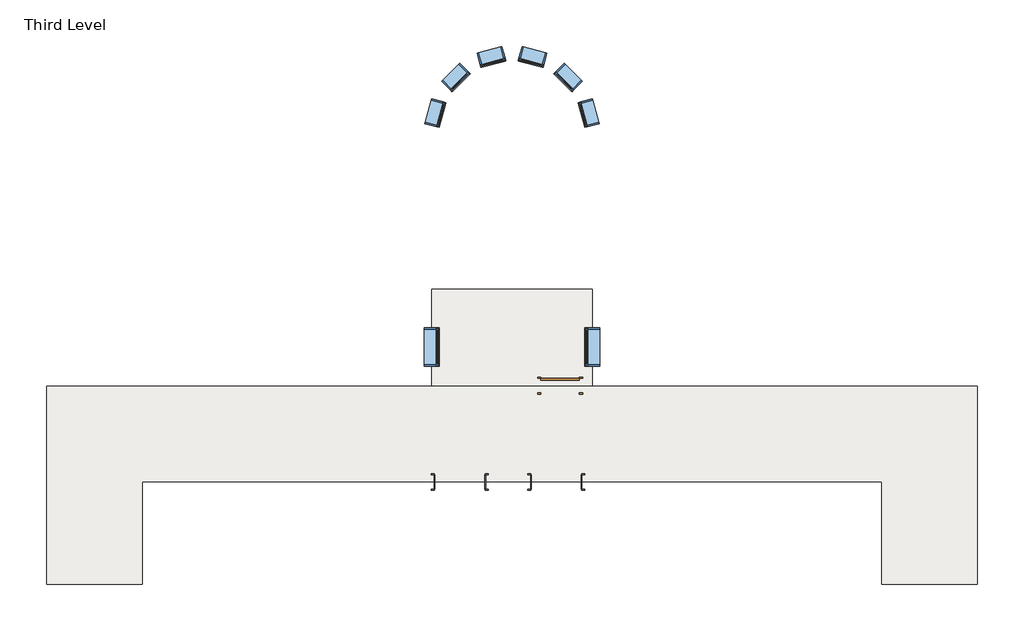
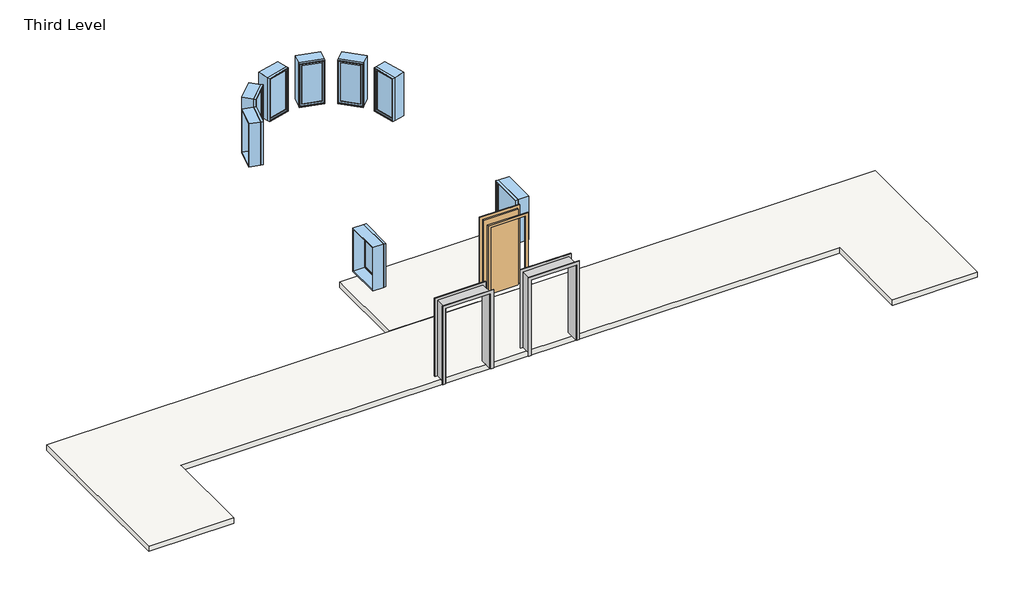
# One storey: 8 windows, 2 proxies, 2 slabs, 1 door.
"""IFC4 building model written with IfcOpenShell, lengths in millimetres."""

from ifc_helpers import new_model, si_unit, frame, origin, place, context, project, spatial, polyline, outline, extrude, transform, mapped, element, save
from components import m_passage_opening_cased_1220_x_2134mm_f04423fa, m_single_flush_0915_x_2134mm_1eac8bb1, m_fixed_0610_x_1220mm_2c28ef1d, m_fixed_0610_x_1220mm_1ea27827, m_fixed_0915_x_1220mm_bde29121

model = new_model("IFC4")

# Units and contexts
model_context = context("Model", 3, world=origin())
ifc_project = project(units=[si_unit("LENGTHUNIT", "METRE", prefix="MILLI")], contexts=[model_context])

# Site, building, storey
site = spatial("IfcSite", under=ifc_project)
building = spatial("IfcBuilding", under=site)
storey = spatial("IfcBuildingStorey", under=building, Name="Third Level", Elevation=6096.0)

# Proxies
placement = place(None, origin())
m_passage_opening_cased_1220_x_2134mm_shape = m_passage_opening_cased_1220_x_2134mm_f04423fa(model_context)
element("IfcBuildingElementProxy", 1, Name="M_Passage Opening-Cased : 1220 x 2134mm", ObjectType="M_Passage Opening-Cased : 1220 x 2134mm", at=placement, inside=storey, context=model_context, shape_type="MappedRepresentation", body=[
    mapped(m_passage_opening_cased_1220_x_2134mm_shape, transform((3529.9038, -3050.7443399, 6096.0), x_axis=(-1.0, 0.0, 0.0), y_axis=(0.0, -1.0, 0.0), z_axis=(0.0, 0.0, 1.0))),
])
element("IfcBuildingElementProxy", 2, Name="M_Passage Opening-Cased : 1220 x 2134mm", ObjectType="M_Passage Opening-Cased : 1220 x 2134mm", at=placement, inside=storey, context=model_context, shape_type="MappedRepresentation", body=[
    mapped(m_passage_opening_cased_1220_x_2134mm_shape, transform((1260.2811134, -3050.7443399, 6096.0), x_axis=(1.0, 0.0, 0.0), y_axis=(0.0, 1.0, 0.0), z_axis=(0.0, 0.0, 1.0))),
])

# Door
m_single_flush_0915_x_2134mm_shape = m_single_flush_0915_x_2134mm_1eac8bb1(model_context)
element("IfcDoor", 3, ObjectType="M_Single-Flush : 0915 x 2134mm", at=placement, inside=storey, context=model_context, shape_type="MappedRepresentation", body=[
    mapped(m_single_flush_0915_x_2134mm_shape, transform((3632.0924567, -764.7443399, 6096.0), x_axis=(1.0, 0.0, 0.0), y_axis=(0.0, 1.0, 0.0), z_axis=(0.0, 0.0, 1.0))),
])

# Slabs
element("IfcSlab", 4, ObjectType="Generic 150mm", at=placement, inside=storey, context=model_context, shape_type="SweptSolid", body=[
    extrude(outline(polyline([(13528.0924567, -774.7443399), (13528.0924567, -5479.1443399), (11262.0924567, -5479.1443399), (11262.0924567, -3040.7443399), (-6283.9075433, -3040.7443399), (-6283.9075433, -5479.1443399), (-8549.9075433, -5479.1443399), (-8549.9075433, -774.7443399), (13528.0924567, -774.7443399)])), frame((0.0, 0.0, 5946.0), z_axis=(0.0, 0.0, 1.0), x_axis=(1.0, 0.0, 0.0)), (0.0, 0.0, 1.0), 150.0),
])
element("IfcSlab", 5, ObjectType="Generic 150mm", at=placement, inside=storey, context=model_context, shape_type="SweptSolid", body=[
    extrude(outline(polyline([(4394.0924567, -764.7443399), (584.0924567, -764.7443399), (584.0924567, 1521.2556601), (4394.0924567, 1521.2556601), (4394.0924567, -764.7443399)])), frame((0.0, 0.0, 5946.0), z_axis=(0.0, 0.0, 1.0), x_axis=(1.0, 0.0, 0.0)), (0.0, 0.0, 1.0), 150.0),
])

# Windows
m_fixed_0610_x_1220mm_shape = m_fixed_0610_x_1220mm_2c28ef1d(model_context)
element("IfcWindow", 6, ObjectType="M_Fixed : 0610 x 1220mm", at=placement, inside=storey, context=model_context, shape_type="MappedRepresentation", body=[
    mapped(m_fixed_0610_x_1220mm_shape, transform((658.1639152, 5700.8514842, 6096.0), x_axis=(-0.2588190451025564, -0.9659258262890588, 0.0), y_axis=(0.9659258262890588, -0.2588190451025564, 0.0), z_axis=(0.0, 0.0, 1.0))),
])
element("IfcWindow", 7, ObjectType="M_Fixed : 0610 x 1220mm", at=placement, inside=storey, context=model_context, shape_type="MappedRepresentation", body=[
    mapped(m_fixed_0610_x_1220mm_shape, transform((1998.4966326, 7041.1842016, 6096.0), x_axis=(-0.9659258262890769, -0.2588190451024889, 0.0), y_axis=(0.2588190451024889, -0.9659258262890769, 0.0), z_axis=(0.0, 0.0, 1.0))),
])
element("IfcWindow", 8, ObjectType="M_Fixed : 0610 x 1220mm", at=placement, inside=storey, context=model_context, shape_type="MappedRepresentation", body=[
    mapped(m_fixed_0610_x_1220mm_shape, transform((1148.7597393, 6550.5883775, 6096.0), x_axis=(-0.7071067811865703, -0.7071067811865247, 0.0), y_axis=(0.7071067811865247, -0.7071067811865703, 0.0), z_axis=(0.0, 0.0, 1.0))),
])
m_fixed_0610_x_1220mm_2_shape = m_fixed_0610_x_1220mm_1ea27827(model_context)
element("IfcWindow", 9, ObjectType="M_Fixed : 0610 x 1220mm", at=placement, inside=storey, context=model_context, shape_type="MappedRepresentation", body=[
    mapped(m_fixed_0610_x_1220mm_2_shape, transform((4320.0209983, 5700.8514842, 6096.0), x_axis=(0.2588190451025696, -0.9659258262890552, 0.0), y_axis=(0.9659258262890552, 0.2588190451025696, 0.0), z_axis=(0.0, 0.0, 1.0))),
])
element("IfcWindow", 10, ObjectType="M_Fixed : 0610 x 1220mm", at=placement, inside=storey, context=model_context, shape_type="MappedRepresentation", body=[
    mapped(m_fixed_0610_x_1220mm_2_shape, transform((2979.6882808, 7041.1842016, 6096.0), x_axis=(0.965925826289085, -0.2588190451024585, 0.0), y_axis=(0.2588190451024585, 0.965925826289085, 0.0), z_axis=(0.0, 0.0, 1.0))),
])
element("IfcWindow", 11, ObjectType="M_Fixed : 0610 x 1220mm", at=placement, inside=storey, context=model_context, shape_type="MappedRepresentation", body=[
    mapped(m_fixed_0610_x_1220mm_2_shape, transform((3829.4251742, 6550.5883775, 6096.0), x_axis=(0.7071067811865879, -0.7071067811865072, 0.0), y_axis=(0.7071067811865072, 0.7071067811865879, 0.0), z_axis=(0.0, 0.0, 1.0))),
])
m_fixed_0915_x_1220mm_shape = m_fixed_0915_x_1220mm_bde29121(model_context)
element("IfcWindow", 12, ObjectType="M_Fixed : 0915 x 1220mm", at=placement, inside=storey, context=model_context, shape_type="MappedRepresentation", body=[
    mapped(m_fixed_0915_x_1220mm_shape, transform((571.0924567, 150.2556601, 6096.0), x_axis=(0.0, -1.0, 0.0), y_axis=(1.0, 0.0, 0.0), z_axis=(0.0, 0.0, 1.0))),
])
element("IfcWindow", 13, ObjectType="M_Fixed : 0915 x 1220mm", at=placement, inside=storey, context=model_context, shape_type="MappedRepresentation", body=[
    mapped(m_fixed_0915_x_1220mm_shape, transform((4407.0924567, 150.2556601, 6096.0), x_axis=(0.0, 1.0, 0.0), y_axis=(-1.0, 0.0, 0.0), z_axis=(0.0, 0.0, 1.0))),
])

save(model, "model.ifc")
